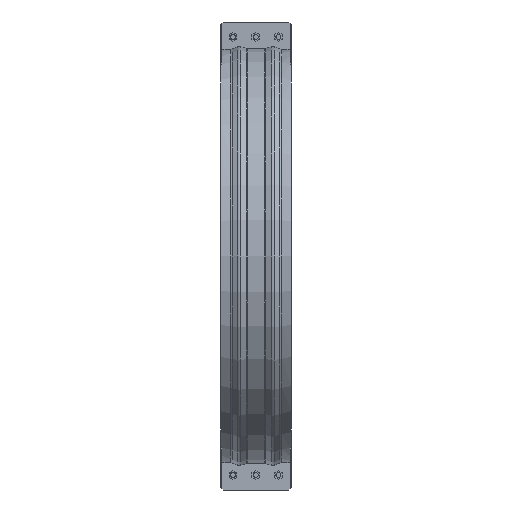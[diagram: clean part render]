
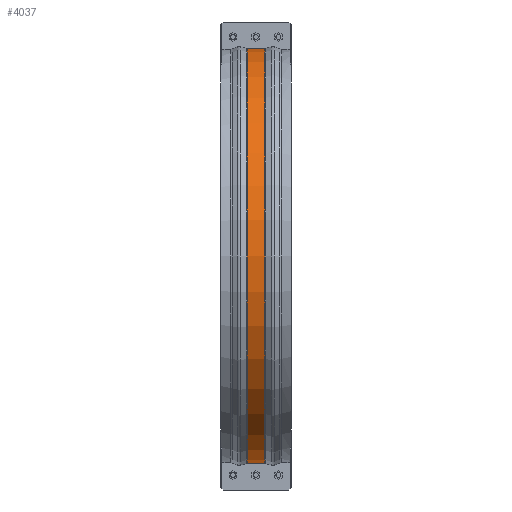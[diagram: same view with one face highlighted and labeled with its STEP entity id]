
A CAD part, front view. The second image highlights one B-rep face of the part: STEP entity #4037.
In plain terms, the highlighted cylindrical face has radius 927.402 mm (diameter 1854.8 mm), a partial arc.
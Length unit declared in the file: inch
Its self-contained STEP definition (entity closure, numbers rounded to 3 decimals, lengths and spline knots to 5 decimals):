
#368=FACE_OUTER_BOUND('',#593,.T.);
#593=EDGE_LOOP('',(#3057,#3058,#3059,#3060));
#910=LINE('',#6241,#1299);
#918=LINE('',#6373,#1307);
#1299=VECTOR('',#4992,0.3937);
#1307=VECTOR('',#5052,0.3937);
#1551=CIRCLE('',#4321,36.51189);
#1553=CIRCLE('',#4325,36.51189);
#1812=VERTEX_POINT('',#6233);
#1813=VERTEX_POINT('',#6240);
#1828=VERTEX_POINT('',#6358);
#1830=VERTEX_POINT('',#6371);
#2259=EDGE_CURVE('',#1813,#1812,#910,.T.);
#2284=EDGE_CURVE('',#1828,#1813,#1551,.T.);
#2288=EDGE_CURVE('',#1830,#1812,#1553,.T.);
#2289=EDGE_CURVE('',#1830,#1828,#918,.T.);
#3057=ORIENTED_EDGE('',*,*,#2259,.T.);
#3058=ORIENTED_EDGE('',*,*,#2288,.F.);
#3059=ORIENTED_EDGE('',*,*,#2289,.T.);
#3060=ORIENTED_EDGE('',*,*,#2284,.T.);
#3704=CYLINDRICAL_SURFACE('',#4324,36.51189);
#4037=ADVANCED_FACE('',(#368),#3704,.T.);
#4321=AXIS2_PLACEMENT_3D('',#6359,#5041,#5042);
#4324=AXIS2_PLACEMENT_3D('',#6370,#5048,#5049);
#4325=AXIS2_PLACEMENT_3D('',#6372,#5050,#5051);
#4992=DIRECTION('',(1.,0.,0.));
#5041=DIRECTION('center_axis',(1.,0.,0.));
#5042=DIRECTION('ref_axis',(0.,0.,-1.));
#5048=DIRECTION('center_axis',(1.,0.,0.));
#5049=DIRECTION('ref_axis',(0.,-1.,0.));
#5050=DIRECTION('center_axis',(1.,0.,0.));
#5051=DIRECTION('ref_axis',(0.,0.,-1.));
#5052=DIRECTION('',(-1.,0.,0.));
#6233=CARTESIAN_POINT('',(1.50101,-0.375,-36.50996));
#6240=CARTESIAN_POINT('',(-1.50101,-0.375,-36.50996));
#6241=CARTESIAN_POINT('',(0.,-0.375,-36.50996));
#6358=CARTESIAN_POINT('',(-1.50101,-0.375,36.50996));
#6359=CARTESIAN_POINT('Origin',(-1.50101,0.,
0.));
#6370=CARTESIAN_POINT('Origin',(0.,0.,0.));
#6371=CARTESIAN_POINT('',(1.50101,-0.375,36.50996));
#6372=CARTESIAN_POINT('Origin',(1.50101,0.,0.));
#6373=CARTESIAN_POINT('',(0.,-0.375,36.50996));
